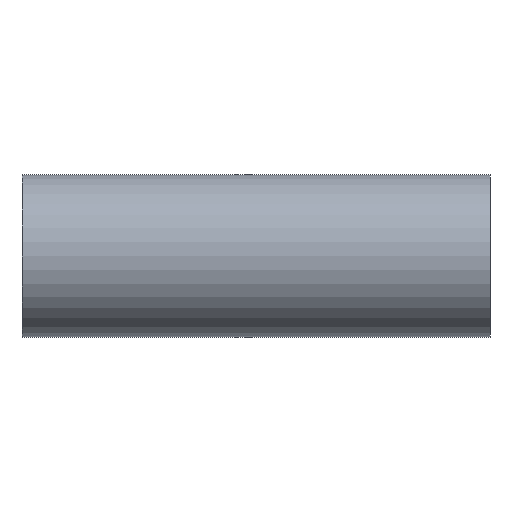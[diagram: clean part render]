
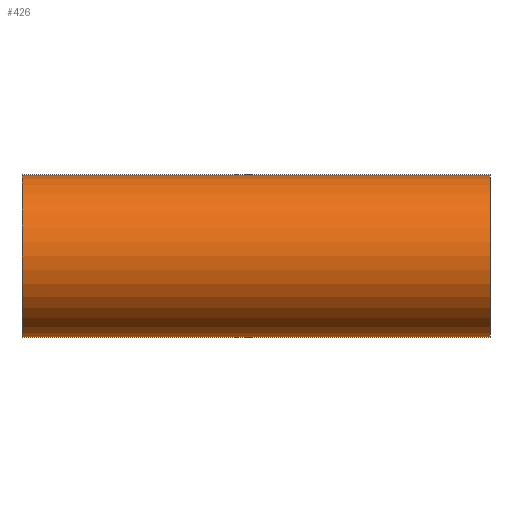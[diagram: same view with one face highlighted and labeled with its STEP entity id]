
A CAD part, front view. The second image highlights one B-rep face of the part: STEP entity #426.
In plain terms, the highlighted cylindrical face has radius 25.4 mm (diameter 50.8 mm), a partial arc.
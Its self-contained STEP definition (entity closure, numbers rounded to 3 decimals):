
#72 = VERTEX_POINT ( 'NONE', #194 ) ;
#141 = DIRECTION ( 'NONE',  ( 1., 0., 0. ) ) ;
#194 = CARTESIAN_POINT ( 'NONE',  ( 73., 0., -25.4 ) ) ;
#199 = CIRCLE ( 'NONE', #636, 25.4 ) ;
#208 = VERTEX_POINT ( 'NONE', #1041 ) ;
#250 = DIRECTION ( 'NONE',  ( 0., 0., -1. ) ) ;
#253 = ORIENTED_EDGE ( 'NONE', *, *, #914, .T. ) ;
#310 = CIRCLE ( 'NONE', #441, 25.4 ) ;
#348 = CARTESIAN_POINT ( 'NONE',  ( -73., 0., -25.4 ) ) ;
#365 = CARTESIAN_POINT ( 'NONE',  ( 73., 0., 0. ) ) ;
#367 = VECTOR ( 'NONE', #1292, 1000. ) ;
#381 = DIRECTION ( 'NONE',  ( -1., 0., 0. ) ) ;
#425 = FACE_OUTER_BOUND ( 'NONE', #483, .T. ) ;
#426 = ADVANCED_FACE ( 'NONE', ( #425 ), #1188, .T. ) ;
#441 = AXIS2_PLACEMENT_3D ( 'NONE', #365, #381, #250 ) ;
#483 = EDGE_LOOP ( 'NONE', ( #1079, #612, #1201, #253 ) ) ;
#493 = CARTESIAN_POINT ( 'NONE',  ( -73., 0., 25.4 ) ) ;
#562 = EDGE_CURVE ( 'NONE', #641, #208, #1218, .T. ) ;
#612 = ORIENTED_EDGE ( 'NONE', *, *, #1325, .T. ) ;
#636 = AXIS2_PLACEMENT_3D ( 'NONE', #932, #828, #816 ) ;
#641 = VERTEX_POINT ( 'NONE', #493 ) ;
#662 = DIRECTION ( 'NONE',  ( 0., 0., -1. ) ) ;
#743 = LINE ( 'NONE', #348, #757 ) ;
#757 = VECTOR ( 'NONE', #141, 1000. ) ;
#763 = DIRECTION ( 'NONE',  ( 1., 0., 0. ) ) ;
#809 = EDGE_CURVE ( 'NONE', #1032, #72, #743, .T. ) ;
#816 = DIRECTION ( 'NONE',  ( 0., 0., -1. ) ) ;
#828 = DIRECTION ( 'NONE',  ( 1., 0., 0. ) ) ;
#873 = CARTESIAN_POINT ( 'NONE',  ( -73., 0., 0. ) ) ;
#914 = EDGE_CURVE ( 'NONE', #72, #208, #310, .T. ) ;
#932 = CARTESIAN_POINT ( 'NONE',  ( -73., 0., 0. ) ) ;
#1032 = VERTEX_POINT ( 'NONE', #1311 ) ;
#1041 = CARTESIAN_POINT ( 'NONE',  ( 73., 0., 25.4 ) ) ;
#1079 = ORIENTED_EDGE ( 'NONE', *, *, #562, .F. ) ;
#1188 = CYLINDRICAL_SURFACE ( 'NONE', #1276, 25.4 ) ;
#1194 = CARTESIAN_POINT ( 'NONE',  ( -73., 0., 25.4 ) ) ;
#1201 = ORIENTED_EDGE ( 'NONE', *, *, #809, .T. ) ;
#1218 = LINE ( 'NONE', #1194, #367 ) ;
#1276 = AXIS2_PLACEMENT_3D ( 'NONE', #873, #763, #662 ) ;
#1292 = DIRECTION ( 'NONE',  ( 1., 0., 0. ) ) ;
#1311 = CARTESIAN_POINT ( 'NONE',  ( -73., 0., -25.4 ) ) ;
#1325 = EDGE_CURVE ( 'NONE', #641, #1032, #199, .T. ) ;
